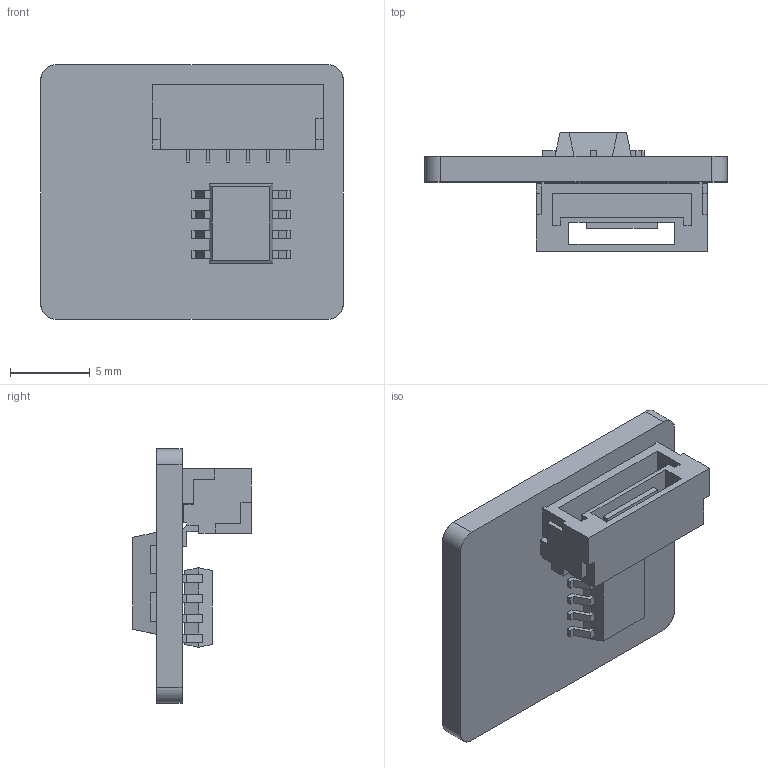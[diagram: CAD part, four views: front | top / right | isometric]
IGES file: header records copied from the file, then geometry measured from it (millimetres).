
Start section: SolidWorks IGES file using analytic representation for surfaces
Global section: file name: C:\Users\Agamemnon\Documents\PSM\PSM-ASM-PSM-R1\PSM-ASM-PSM-R1.IGS; native system: SolidWorks 2016; preprocessor: SolidWorks 2016; author: Agamemnon; date: 180702.093207; units: metre
Bounding box: 19 x 7.45 x 16 mm (x, y, z)
Surface area: 1233.4 mm2 (no closed solid volume)
Topology: 0 solids, 0 shells, 276 faces, 1584 edges, 1584 vertices
Faces by surface type: bspline 272, revolution 4
